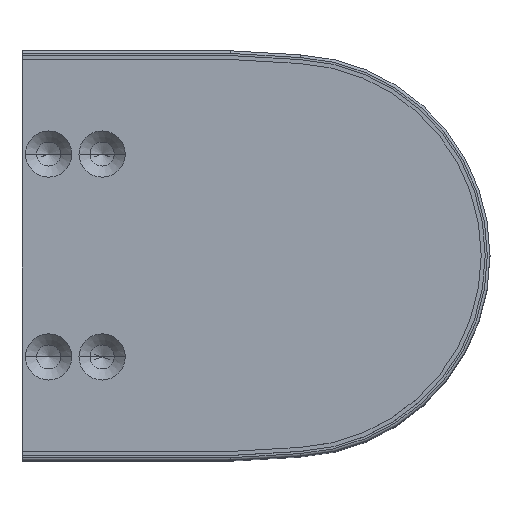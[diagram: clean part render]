
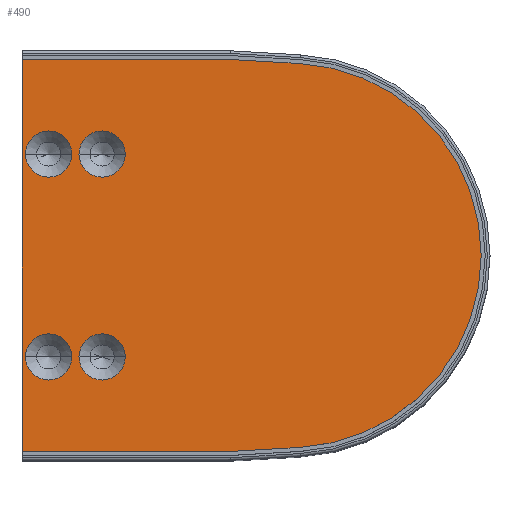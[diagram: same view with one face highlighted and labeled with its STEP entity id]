
A CAD part, top view. The second image highlights one B-rep face of the part: STEP entity #490.
In plain terms, the highlighted planar face has unit normal (0, 0, 1).
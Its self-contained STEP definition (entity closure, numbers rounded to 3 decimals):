
#11 = CARTESIAN_POINT ( 'NONE',  ( -21.968, 73.4, 113.5 ) ) ;
#108 = VECTOR ( 'NONE', #2602, 1000. ) ;
#149 = VERTEX_POINT ( 'NONE', #2860 ) ;
#200 = VERTEX_POINT ( 'NONE', #327 ) ;
#212 = LINE ( 'NONE', #2625, #108 ) ;
#219 = ORIENTED_EDGE ( 'NONE', *, *, #2171, .F. ) ;
#258 = CARTESIAN_POINT ( 'NONE',  ( -98.65, -38., 113.5 ) ) ;
#303 = DIRECTION ( 'NONE',  ( 1., 0., 0. ) ) ;
#327 = CARTESIAN_POINT ( 'NONE',  ( -78.65, 38., 113.5 ) ) ;
#419 = CIRCLE ( 'NONE', #2318, 8.65 ) ;
#442 = CARTESIAN_POINT ( 'NONE',  ( -70., 38., 113.5 ) ) ;
#460 = EDGE_CURVE ( 'NONE', #2299, #200, #1232, .T. ) ;
#463 = ORIENTED_EDGE ( 'NONE', *, *, #1460, .F. ) ;
#467 = EDGE_LOOP ( 'NONE', ( #1646, #2826 ) ) ;
#490 = ADVANCED_FACE ( 'NONE', ( #3557, #1184, #3206, #3419, #1884 ), #1906, .T. ) ;
#540 = CARTESIAN_POINT ( 'NONE',  ( -100., 73.4, 113.5 ) ) ;
#593 = DIRECTION ( 'NONE',  ( 1., 0., 0. ) ) ;
#599 = EDGE_CURVE ( 'NONE', #2337, #1477, #1879, .T. ) ;
#609 = EDGE_LOOP ( 'NONE', ( #3739, #463 ) ) ;
#646 = DIRECTION ( 'NONE',  ( 0., 0., 1. ) ) ;
#660 = CARTESIAN_POINT ( 'NONE',  ( -70., -38., 113.5 ) ) ;
#707 = ORIENTED_EDGE ( 'NONE', *, *, #599, .F. ) ;
#712 = CIRCLE ( 'NONE', #3607, 8.65 ) ;
#713 = DIRECTION ( 'NONE',  ( 1., 0., 0. ) ) ;
#757 = VECTOR ( 'NONE', #3268, 1000. ) ;
#781 = VERTEX_POINT ( 'NONE', #540 ) ;
#862 = LINE ( 'NONE', #3605, #757 ) ;
#977 = AXIS2_PLACEMENT_3D ( 'NONE', #2569, #3867, #1628 ) ;
#983 = CARTESIAN_POINT ( 'NONE',  ( 0., 0., 113.5 ) ) ;
#1014 = DIRECTION ( 'NONE',  ( 0., 0., 1. ) ) ;
#1029 = VECTOR ( 'NONE', #1431, 1000. ) ;
#1031 = VERTEX_POINT ( 'NONE', #1875 ) ;
#1034 = ORIENTED_EDGE ( 'NONE', *, *, #2782, .T. ) ;
#1040 = CARTESIAN_POINT ( 'NONE',  ( -98.65, 38., 113.5 ) ) ;
#1051 = DIRECTION ( 'NONE',  ( 0., 0., 1. ) ) ;
#1114 = CARTESIAN_POINT ( 'NONE',  ( -100., -73.4, 113.5 ) ) ;
#1172 = EDGE_LOOP ( 'NONE', ( #219, #1599, #2509, #1034, #1422, #707 ) ) ;
#1184 = FACE_BOUND ( 'NONE', #2303, .T. ) ;
#1232 = CIRCLE ( 'NONE', #977, 8.65 ) ;
#1272 = CARTESIAN_POINT ( 'NONE',  ( 4.182, -71.878, 113.5 ) ) ;
#1335 = AXIS2_PLACEMENT_3D ( 'NONE', #1426, #3698, #1761 ) ;
#1351 = AXIS2_PLACEMENT_3D ( 'NONE', #983, #1927, #3216 ) ;
#1422 = ORIENTED_EDGE ( 'NONE', *, *, #2584, .T. ) ;
#1426 = CARTESIAN_POINT ( 'NONE',  ( -90., 38., 113.5 ) ) ;
#1431 = DIRECTION ( 'NONE',  ( 1., 0., 0. ) ) ;
#1460 = EDGE_CURVE ( 'NONE', #2182, #1851, #4184, .T. ) ;
#1477 = VERTEX_POINT ( 'NONE', #2088 ) ;
#1500 = VERTEX_POINT ( 'NONE', #2411 ) ;
#1519 = EDGE_CURVE ( 'NONE', #200, #2299, #2232, .T. ) ;
#1529 = CARTESIAN_POINT ( 'NONE',  ( -90., 38., 113.5 ) ) ;
#1535 = CARTESIAN_POINT ( 'NONE',  ( -81.35, 38., 113.5 ) ) ;
#1599 = ORIENTED_EDGE ( 'NONE', *, *, #2121, .T. ) ;
#1628 = DIRECTION ( 'NONE',  ( 1., 0., 0. ) ) ;
#1646 = ORIENTED_EDGE ( 'NONE', *, *, #3436, .F. ) ;
#1666 = CARTESIAN_POINT ( 'NONE',  ( -90., -38., 113.5 ) ) ;
#1695 = CARTESIAN_POINT ( 'NONE',  ( -90., -38., 113.5 ) ) ;
#1761 = DIRECTION ( 'NONE',  ( 1., 0., 0. ) ) ;
#1851 = VERTEX_POINT ( 'NONE', #1535 ) ;
#1875 = CARTESIAN_POINT ( 'NONE',  ( -21.968, -73.4, 113.5 ) ) ;
#1879 = LINE ( 'NONE', #11, #3002 ) ;
#1881 = CARTESIAN_POINT ( 'NONE',  ( 0., 0., 113.5 ) ) ;
#1884 = FACE_OUTER_BOUND ( 'NONE', #1172, .T. ) ;
#1897 = VERTEX_POINT ( 'NONE', #2140 ) ;
#1906 = PLANE ( 'NONE',  #1351 ) ;
#1917 = AXIS2_PLACEMENT_3D ( 'NONE', #1666, #1014, #3616 ) ;
#1927 = DIRECTION ( 'NONE',  ( 0., 0., 1. ) ) ;
#2010 = AXIS2_PLACEMENT_3D ( 'NONE', #442, #2981, #4176 ) ;
#2088 = CARTESIAN_POINT ( 'NONE',  ( 4.182, 71.878, 113.5 ) ) ;
#2121 = EDGE_CURVE ( 'NONE', #781, #1500, #862, .T. ) ;
#2140 = CARTESIAN_POINT ( 'NONE',  ( -81.35, -38., 113.5 ) ) ;
#2148 = ORIENTED_EDGE ( 'NONE', *, *, #1519, .F. ) ;
#2171 = EDGE_CURVE ( 'NONE', #781, #2337, #2275, .T. ) ;
#2182 = VERTEX_POINT ( 'NONE', #1040 ) ;
#2232 = CIRCLE ( 'NONE', #2010, 8.65 ) ;
#2237 = ORIENTED_EDGE ( 'NONE', *, *, #3346, .F. ) ;
#2275 = LINE ( 'NONE', #2667, #2687 ) ;
#2299 = VERTEX_POINT ( 'NONE', #3707 ) ;
#2303 = EDGE_LOOP ( 'NONE', ( #3483, #2148 ) ) ;
#2318 = AXIS2_PLACEMENT_3D ( 'NONE', #1695, #1051, #713 ) ;
#2337 = VERTEX_POINT ( 'NONE', #2347 ) ;
#2347 = CARTESIAN_POINT ( 'NONE',  ( -21.968, 73.4, 113.5 ) ) ;
#2355 = ORIENTED_EDGE ( 'NONE', *, *, #4068, .F. ) ;
#2411 = CARTESIAN_POINT ( 'NONE',  ( -100., -73.4, 113.5 ) ) ;
#2443 = EDGE_LOOP ( 'NONE', ( #2355, #2237 ) ) ;
#2509 = ORIENTED_EDGE ( 'NONE', *, *, #3032, .T. ) ;
#2520 = DIRECTION ( 'NONE',  ( 0., 0., 1. ) ) ;
#2534 = CIRCLE ( 'NONE', #1917, 8.65 ) ;
#2547 = DIRECTION ( 'NONE',  ( 1., 0., 0. ) ) ;
#2569 = CARTESIAN_POINT ( 'NONE',  ( -70., 38., 113.5 ) ) ;
#2581 = EDGE_CURVE ( 'NONE', #1851, #2182, #3730, .T. ) ;
#2584 = EDGE_CURVE ( 'NONE', #3307, #1477, #3321, .T. ) ;
#2602 = DIRECTION ( 'NONE',  ( 0.998, 0.058, 0. ) ) ;
#2625 = CARTESIAN_POINT ( 'NONE',  ( -21.968, -73.4, 113.5 ) ) ;
#2637 = VERTEX_POINT ( 'NONE', #258 ) ;
#2667 = CARTESIAN_POINT ( 'NONE',  ( -100., 73.4, 113.5 ) ) ;
#2687 = VECTOR ( 'NONE', #2998, 1000. ) ;
#2782 = EDGE_CURVE ( 'NONE', #1031, #3307, #212, .T. ) ;
#2826 = ORIENTED_EDGE ( 'NONE', *, *, #2862, .F. ) ;
#2838 = CARTESIAN_POINT ( 'NONE',  ( -70., -38., 113.5 ) ) ;
#2860 = CARTESIAN_POINT ( 'NONE',  ( -78.65, -38., 113.5 ) ) ;
#2862 = EDGE_CURVE ( 'NONE', #2637, #1897, #419, .T. ) ;
#2911 = DIRECTION ( 'NONE',  ( 1., 0., 0. ) ) ;
#2929 = DIRECTION ( 'NONE',  ( 0., 0., 1. ) ) ;
#2981 = DIRECTION ( 'NONE',  ( 0., 0., 1. ) ) ;
#2998 = DIRECTION ( 'NONE',  ( 1., 0., 0. ) ) ;
#3002 = VECTOR ( 'NONE', #3283, 1000. ) ;
#3032 = EDGE_CURVE ( 'NONE', #1500, #1031, #4052, .T. ) ;
#3119 = CARTESIAN_POINT ( 'NONE',  ( -61.35, -38., 113.5 ) ) ;
#3196 = AXIS2_PLACEMENT_3D ( 'NONE', #1881, #646, #2911 ) ;
#3206 = FACE_BOUND ( 'NONE', #2443, .T. ) ;
#3216 = DIRECTION ( 'NONE',  ( 1., 0., 0. ) ) ;
#3261 = AXIS2_PLACEMENT_3D ( 'NONE', #660, #2929, #2547 ) ;
#3268 = DIRECTION ( 'NONE',  ( 0., -1., 0. ) ) ;
#3283 = DIRECTION ( 'NONE',  ( 0.998, -0.058, 0. ) ) ;
#3307 = VERTEX_POINT ( 'NONE', #1272 ) ;
#3321 = CIRCLE ( 'NONE', #3196, 72. ) ;
#3341 = CIRCLE ( 'NONE', #3261, 8.65 ) ;
#3346 = EDGE_CURVE ( 'NONE', #149, #3687, #712, .T. ) ;
#3419 = FACE_BOUND ( 'NONE', #467, .T. ) ;
#3436 = EDGE_CURVE ( 'NONE', #1897, #2637, #2534, .T. ) ;
#3483 = ORIENTED_EDGE ( 'NONE', *, *, #460, .F. ) ;
#3546 = AXIS2_PLACEMENT_3D ( 'NONE', #1529, #3798, #303 ) ;
#3557 = FACE_BOUND ( 'NONE', #609, .T. ) ;
#3605 = CARTESIAN_POINT ( 'NONE',  ( -100., 73.4, 113.5 ) ) ;
#3607 = AXIS2_PLACEMENT_3D ( 'NONE', #2838, #2520, #593 ) ;
#3616 = DIRECTION ( 'NONE',  ( 1., 0., 0. ) ) ;
#3687 = VERTEX_POINT ( 'NONE', #3119 ) ;
#3698 = DIRECTION ( 'NONE',  ( 0., 0., 1. ) ) ;
#3707 = CARTESIAN_POINT ( 'NONE',  ( -61.35, 38., 113.5 ) ) ;
#3730 = CIRCLE ( 'NONE', #3546, 8.65 ) ;
#3739 = ORIENTED_EDGE ( 'NONE', *, *, #2581, .F. ) ;
#3798 = DIRECTION ( 'NONE',  ( 0., 0., 1. ) ) ;
#3867 = DIRECTION ( 'NONE',  ( 0., 0., 1. ) ) ;
#4052 = LINE ( 'NONE', #1114, #1029 ) ;
#4068 = EDGE_CURVE ( 'NONE', #3687, #149, #3341, .T. ) ;
#4176 = DIRECTION ( 'NONE',  ( 1., 0., 0. ) ) ;
#4184 = CIRCLE ( 'NONE', #1335, 8.65 ) ;
